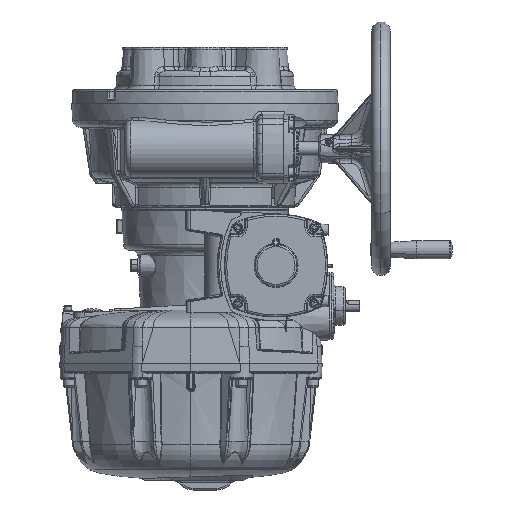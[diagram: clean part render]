
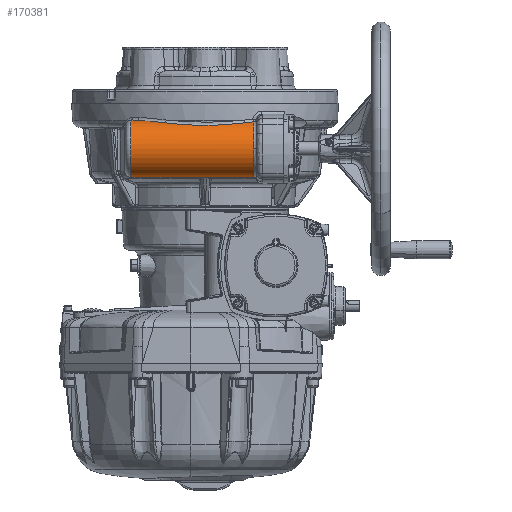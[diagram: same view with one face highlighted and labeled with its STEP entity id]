
A CAD part, front view. The second image highlights one B-rep face of the part: STEP entity #170381.
In plain terms, the highlighted cylindrical face has radius 30 mm (diameter 60 mm), a partial arc.
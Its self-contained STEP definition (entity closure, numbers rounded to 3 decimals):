
#836 = CARTESIAN_POINT ( 'NONE',  ( 185.93, 189.603, -38.234 ) ) ;
#2743 = CARTESIAN_POINT ( 'NONE',  ( 255.831, 197.005, -34.865 ) ) ;
#3611 = DIRECTION ( 'NONE',  ( -1., 0., 0. ) ) ;
#9308 = VECTOR ( 'NONE', #150752, 1000. ) ;
#11135 = EDGE_CURVE ( 'NONE', #161554, #76637, #43718, .T. ) ;
#13035 = CARTESIAN_POINT ( 'NONE',  ( 258.831, 205.63, -63.599 ) ) ;
#13208 = VERTEX_POINT ( 'NONE', #120823 ) ;
#18289 = DIRECTION ( 'NONE',  ( 1., 0., 0. ) ) ;
#28145 = CARTESIAN_POINT ( 'NONE',  ( 255.831, 175.63, -63.599 ) ) ;
#28179 = FACE_OUTER_BOUND ( 'NONE', #49735, .T. ) ;
#31976 = CARTESIAN_POINT ( 'NONE',  ( 255.831, 197.005, -34.865 ) ) ;
#32201 = CARTESIAN_POINT ( 'NONE',  ( 141.46, 201.004, -33.937 ) ) ;
#32548 = CARTESIAN_POINT ( 'NONE',  ( 218.037, 189.29, -38.438 ) ) ;
#33128 = B_SPLINE_CURVE_WITH_KNOTS ( 'NONE', 3,
 ( #133758, #66306, #52990, #150582, #32201, #95597, #54762, #68024 ),
 .UNSPECIFIED., .F., .F.,
 ( 4, 2, 2, 4 ),
 ( 0., 0.016, 0.024, 0.032 ),
 .UNSPECIFIED. ) ;
#36647 = EDGE_CURVE ( 'NONE', #13208, #168309, #124426, .T. ) ;
#40894 = CARTESIAN_POINT ( 'NONE',  ( 228.646, 190.414, -37.739 ) ) ;
#42497 = CARTESIAN_POINT ( 'NONE',  ( 131.817, 205.63, -33.599 ) ) ;
#43718 = LINE ( 'NONE', #166205, #158422 ) ;
#45889 = CARTESIAN_POINT ( 'NONE',  ( 161.526, 194.011, -35.94 ) ) ;
#48325 = EDGE_CURVE ( 'NONE', #168309, #61735, #33128, .T. ) ;
#48853 = VERTEX_POINT ( 'NONE', #143645 ) ;
#49735 = EDGE_LOOP ( 'NONE', ( #94811, #60597, #136697, #70819, #170509, #89790, #116423, #100934 ) ) ;
#52460 = CARTESIAN_POINT ( 'NONE',  ( 246.137, 194.011, -35.94 ) ) ;
#52990 = CARTESIAN_POINT ( 'NONE',  ( 151.338, 197.077, -34.776 ) ) ;
#53011 = DIRECTION ( 'NONE',  ( 0., -1., 0. ) ) ;
#54762 = CARTESIAN_POINT ( 'NONE',  ( 134.199, 204.382, -33.599 ) ) ;
#55105 = CARTESIAN_POINT ( 'NONE',  ( 168.398, 192.286, -36.719 ) ) ;
#55227 = VERTEX_POINT ( 'NONE', #31976 ) ;
#55972 = CARTESIAN_POINT ( 'NONE',  ( 175.355, 190.966, -37.416 ) ) ;
#60597 = ORIENTED_EDGE ( 'NONE', *, *, #170369, .T. ) ;
#61735 = VERTEX_POINT ( 'NONE', #42497 ) ;
#63965 = AXIS2_PLACEMENT_3D ( 'NONE', #90457, #132210, #144659 ) ;
#66306 = CARTESIAN_POINT ( 'NONE',  ( 156.382, 195.415, -35.35 ) ) ;
#67203 = VERTEX_POINT ( 'NONE', #28145 ) ;
#67668 = CARTESIAN_POINT ( 'NONE',  ( 246.137, 194.011, -35.94 ) ) ;
#68024 = CARTESIAN_POINT ( 'NONE',  ( 131.817, 205.63, -33.599 ) ) ;
#70819 = ORIENTED_EDGE ( 'NONE', *, *, #36647, .T. ) ;
#72474 = CARTESIAN_POINT ( 'NONE',  ( 178.862, 190.436, -37.726 ) ) ;
#73368 = CARTESIAN_POINT ( 'NONE',  ( 244.412, 193.54, -36.138 ) ) ;
#76637 = VERTEX_POINT ( 'NONE', #135550 ) ;
#81880 = CARTESIAN_POINT ( 'NONE',  ( 249.4, 194.902, -35.566 ) ) ;
#82581 = CARTESIAN_POINT ( 'NONE',  ( 210.935, 188.896, -38.698 ) ) ;
#85819 = CARTESIAN_POINT ( 'NONE',  ( 189.49, 189.3, -38.432 ) ) ;
#86472 = CARTESIAN_POINT ( 'NONE',  ( 255.831, 205.63, -93.599 ) ) ;
#89790 = ORIENTED_EDGE ( 'NONE', *, *, #155406, .T. ) ;
#90457 = CARTESIAN_POINT ( 'NONE',  ( 255.831, 205.63, -63.599 ) ) ;
#91224 = CIRCLE ( 'NONE', #105379, 30. ) ;
#94811 = ORIENTED_EDGE ( 'NONE', *, *, #95374, .T. ) ;
#95374 = EDGE_CURVE ( 'NONE', #161554, #67203, #91224, .T. ) ;
#95597 = CARTESIAN_POINT ( 'NONE',  ( 136.604, 203.209, -33.676 ) ) ;
#100814 = B_SPLINE_CURVE_WITH_KNOTS ( 'NONE', 3,
 ( #2743, #135175, #81880, #67668 ),
 .UNSPECIFIED., .F., .F.,
 ( 4, 4 ),
 ( 0., 0.01 ),
 .UNSPECIFIED. ) ;
#100934 = ORIENTED_EDGE ( 'NONE', *, *, #11135, .F. ) ;
#100948 = DIRECTION ( 'NONE',  ( 0., 1., 0. ) ) ;
#105379 = AXIS2_PLACEMENT_3D ( 'NONE', #135547, #134667, #53011 ) ;
#109005 = CYLINDRICAL_SURFACE ( 'NONE', #129349, 30. ) ;
#110045 = CARTESIAN_POINT ( 'NONE',  ( 221.58, 189.588, -38.243 ) ) ;
#113327 = CARTESIAN_POINT ( 'NONE',  ( 164.948, 193.077, -36.332 ) ) ;
#114229 = CARTESIAN_POINT ( 'NONE',  ( 242.678, 193.105, -36.335 ) ) ;
#114264 = CARTESIAN_POINT ( 'NONE',  ( 124.831, 205.63, -63.599 ) ) ;
#116423 = ORIENTED_EDGE ( 'NONE', *, *, #144419, .T. ) ;
#120823 = CARTESIAN_POINT ( 'NONE',  ( 246.137, 194.011, -35.94 ) ) ;
#121541 = LINE ( 'NONE', #122418, #9308 ) ;
#122418 = CARTESIAN_POINT ( 'NONE',  ( 258.831, 205.63, -33.599 ) ) ;
#122601 = CARTESIAN_POINT ( 'NONE',  ( 196.662, 188.898, -38.697 ) ) ;
#124426 = B_SPLINE_CURVE_WITH_KNOTS ( 'NONE', 3,
 ( #52460, #73368, #114229, #166652, #140008, #154161, #40894, #110045, #32548, #82581, #136765, #127518, #122601, #85819, #836, #72474, #55972, #55105, #113327, #168406 ),
 .UNSPECIFIED., .F., .F.,
 ( 4, 2, 2, 2, 2, 2, 2, 2, 2, 4 ),
 ( 0., 0.005, 0.011, 0.022, 0.032, 0.043, 0.054, 0.065, 0.076, 0.086 ),
 .UNSPECIFIED. ) ;
#127518 = CARTESIAN_POINT ( 'NONE',  ( 200.238, 188.801, -38.763 ) ) ;
#129349 = AXIS2_PLACEMENT_3D ( 'NONE', #13035, #133925, #149878 ) ;
#132210 = DIRECTION ( 'NONE',  ( -1., 0., 0. ) ) ;
#133758 = CARTESIAN_POINT ( 'NONE',  ( 161.526, 194.011, -35.94 ) ) ;
#133925 = DIRECTION ( 'NONE',  ( -1., 0., 0. ) ) ;
#134667 = DIRECTION ( 'NONE',  ( -1., 0., 0. ) ) ;
#135175 = CARTESIAN_POINT ( 'NONE',  ( 252.631, 195.898, -35.197 ) ) ;
#135547 = CARTESIAN_POINT ( 'NONE',  ( 255.831, 205.63, -63.599 ) ) ;
#135550 = CARTESIAN_POINT ( 'NONE',  ( 124.831, 205.63, -93.599 ) ) ;
#136697 = ORIENTED_EDGE ( 'NONE', *, *, #168558, .T. ) ;
#136765 = CARTESIAN_POINT ( 'NONE',  ( 207.375, 188.8, -38.764 ) ) ;
#140008 = CARTESIAN_POINT ( 'NONE',  ( 237.44, 191.939, -36.902 ) ) ;
#140460 = CIRCLE ( 'NONE', #63965, 30. ) ;
#143645 = CARTESIAN_POINT ( 'NONE',  ( 124.831, 205.63, -33.599 ) ) ;
#144419 = EDGE_CURVE ( 'NONE', #48853, #76637, #148436, .T. ) ;
#144659 = DIRECTION ( 'NONE',  ( 0., -1., 0. ) ) ;
#148436 = CIRCLE ( 'NONE', #162542, 30. ) ;
#149878 = DIRECTION ( 'NONE',  ( 0., 1., 0. ) ) ;
#150582 = CARTESIAN_POINT ( 'NONE',  ( 143.912, 199.972, -34.12 ) ) ;
#150752 = DIRECTION ( 'NONE',  ( -1., 0., 0. ) ) ;
#154161 = CARTESIAN_POINT ( 'NONE',  ( 232.17, 190.943, -37.429 ) ) ;
#155406 = EDGE_CURVE ( 'NONE', #61735, #48853, #121541, .T. ) ;
#158422 = VECTOR ( 'NONE', #3611, 1000. ) ;
#161554 = VERTEX_POINT ( 'NONE', #86472 ) ;
#162542 = AXIS2_PLACEMENT_3D ( 'NONE', #114264, #18289, #100948 ) ;
#166205 = CARTESIAN_POINT ( 'NONE',  ( 258.831, 205.63, -93.599 ) ) ;
#166652 = CARTESIAN_POINT ( 'NONE',  ( 239.193, 192.305, -36.717 ) ) ;
#168309 = VERTEX_POINT ( 'NONE', #45889 ) ;
#168406 = CARTESIAN_POINT ( 'NONE',  ( 161.526, 194.011, -35.94 ) ) ;
#168558 = EDGE_CURVE ( 'NONE', #55227, #13208, #100814, .T. ) ;
#170369 = EDGE_CURVE ( 'NONE', #67203, #55227, #140460, .T. ) ;
#170381 = ADVANCED_FACE ( 'NONE', ( #28179 ), #109005, .T. ) ;
#170509 = ORIENTED_EDGE ( 'NONE', *, *, #48325, .T. ) ;
